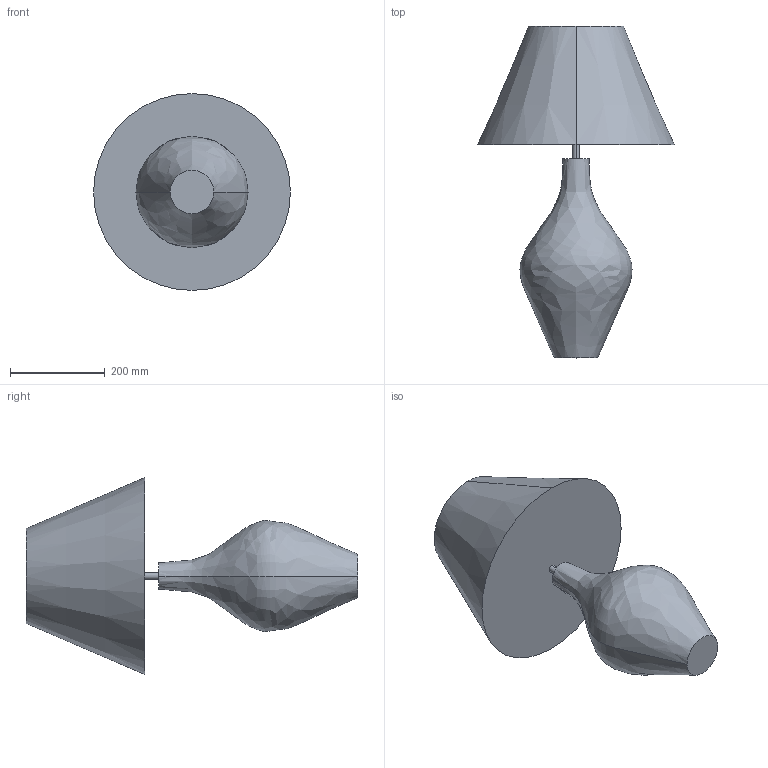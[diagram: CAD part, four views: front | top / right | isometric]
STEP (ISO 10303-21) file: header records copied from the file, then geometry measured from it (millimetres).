
FILE_DESCRIPTION (( 'STEP AP214' ), '1' );
FILE_NAME ('08.STEP', '2016-10-07T08:40:28', ( 'Tripiodiy' ), ( '' ), 'SwSTEP 2.0', 'SolidWorks 2016', '' );
FILE_SCHEMA (( 'AUTOMOTIVE_DESIGN' ));
Length unit declared in the file: millimetre
Products named in the file (1): 08
Bounding box: 415 x 700 x 415 mm (x, y, z)
Volume: 1820471.7 mm3; surface area: 1215649.5 mm2
Topology: 1 solids, 1 shells, 20 faces, 38 edges, 24 vertices
Faces by surface type: cone 6, plane 6, bspline 4, cylinder 4
Entity records: 1056 total; most frequent: CARTESIAN_POINT 615, DIRECTION 92, ORIENTED_EDGE 76, AXIS2_PLACEMENT_3D 41, EDGE_CURVE 38, EDGE_LOOP 24, VERTEX_POINT 24, CIRCLE 24
